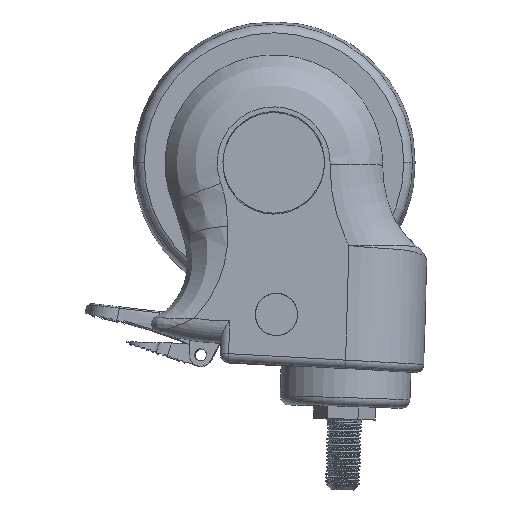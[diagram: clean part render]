
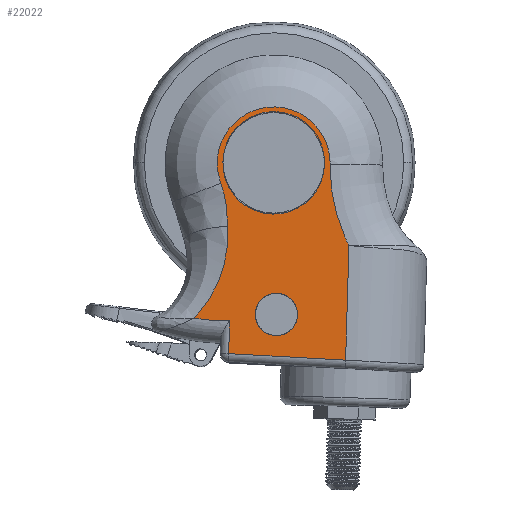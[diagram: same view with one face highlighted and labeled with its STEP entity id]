
A CAD part, top view. The second image highlights one B-rep face of the part: STEP entity #22022.
In plain terms, the highlighted planar face has unit normal (-0.007, 0.005, 1).
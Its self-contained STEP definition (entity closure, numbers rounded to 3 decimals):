
#18695=CARTESIAN_POINT('',(59.624,-35.058,
-20.365));
#19414=DIRECTION('',(0.029,1.,-0.004));
#19415=VECTOR('',#19414,40.624);
#19416=CARTESIAN_POINT('',(59.624,-35.058,
-20.365));
#19417=LINE('',#19416,#19415);
#19430=CARTESIAN_POINT('',(17.61,50.864,
-21.064));
#19431=DIRECTION('',(0.007,-0.005,-1.));
#19432=DIRECTION('',(0.013,-1.,0.005));
#19433=AXIS2_PLACEMENT_3D('',#19430,#19431,#19432);
#19435=CARTESIAN_POINT('',(17.862,12.393,
-20.887));
#19436=CARTESIAN_POINT('',(17.734,14.952,
-20.899));
#19437=CARTESIAN_POINT('',(17.431,20.076,
-20.925));
#19438=CARTESIAN_POINT('',(16.34,25.188,
-20.956));
#19439=CARTESIAN_POINT('',(15.42,27.622,
-20.974));
#19441=CARTESIAN_POINT('',(15.42,27.622,
-20.974));
#19442=CARTESIAN_POINT('',(14.983,28.806,
-20.983));
#19443=CARTESIAN_POINT('',(14.328,31.179,
-20.998));
#19444=CARTESIAN_POINT('',(14.016,34.798,
-21.017));
#19445=CARTESIAN_POINT('',(14.365,38.345,
-21.031));
#19446=CARTESIAN_POINT('',(15.288,41.693,
-21.039));
#19447=CARTESIAN_POINT('',(16.811,44.912,
-21.043));
#19448=CARTESIAN_POINT('',(18.875,47.784,
-21.041));
#19449=CARTESIAN_POINT('',(21.401,50.255,
-21.034));
#19450=CARTESIAN_POINT('',(24.313,52.236,
-21.022));
#19451=CARTESIAN_POINT('',(27.518,53.674,
-21.005));
#19452=CARTESIAN_POINT('',(30.914,54.538,
-20.984));
#19453=CARTESIAN_POINT('',(34.406,54.79,
-20.96));
#19454=CARTESIAN_POINT('',(37.887,54.44,
-20.933));
#19455=CARTESIAN_POINT('',(41.253,53.489,
-20.904));
#19456=CARTESIAN_POINT('',(44.407,51.965,
-20.874));
#19457=CARTESIAN_POINT('',(47.257,49.919,
-20.844));
#19458=CARTESIAN_POINT('',(49.706,47.391,
-20.814));
#19459=CARTESIAN_POINT('',(51.648,44.542,
-20.787));
#19460=CARTESIAN_POINT('',(53.098,41.346,
-20.762));
#19461=CARTESIAN_POINT('',(53.964,37.929,
-20.74));
#19462=CARTESIAN_POINT('',(54.142,35.601,
-20.728));
#19463=CARTESIAN_POINT('',(54.125,34.416,
-20.723));
#19465=CARTESIAN_POINT('',(116.097,33.556,
-20.266));
#19466=DIRECTION('',(-0.007,0.005,1.));
#19467=DIRECTION('',(-1.,0.014,-0.007));
#19468=AXIS2_PLACEMENT_3D('',#19465,#19466,#19467);
#19470=CARTESIAN_POINT('',(116.097,33.556,
-20.266));
#19471=DIRECTION('',(-0.007,0.005,1.));
#19472=DIRECTION('',(-0.916,-0.402,-0.005));
#19473=AXIS2_PLACEMENT_3D('',#19470,#19471,#19472);
#19475=DIRECTION('',(-0.998,0.055,-0.008));
#19476=VECTOR('',#19475,41.514);
#19477=CARTESIAN_POINT('',(59.624,-35.058,
-20.365));
#19478=LINE('',#19477,#19476);
#19479=CARTESIAN_POINT('',(34.128,34.693,
-20.87));
#19480=DIRECTION('',(-0.007,0.005,1.));
#19481=DIRECTION('',(-1.,0.029,-0.007));
#19482=AXIS2_PLACEMENT_3D('',#19479,#19480,#19481);
#19484=CARTESIAN_POINT('',(34.128,34.693,
-20.87));
#19485=DIRECTION('',(-0.007,0.005,1.));
#19486=DIRECTION('',(1.,-0.029,0.007));
#19487=AXIS2_PLACEMENT_3D('',#19484,#19485,#19486);
#19489=CARTESIAN_POINT('',(35.086,-18.873,
-20.618));
#19490=DIRECTION('',(-0.007,0.005,1.));
#19491=DIRECTION('',(-1.,0.029,-0.007));
#19492=AXIS2_PLACEMENT_3D('',#19489,#19490,#19491);
#19494=CARTESIAN_POINT('',(35.086,-18.873,
-20.618));
#19495=DIRECTION('',(-0.007,0.005,1.));
#19496=DIRECTION('',(1.,-0.029,0.007));
#19497=AXIS2_PLACEMENT_3D('',#19494,#19495,#19496);
#19499=DIRECTION('',(-0.029,-1.,0.004));
#19500=VECTOR('',#19499,11.64);
#19501=CARTESIAN_POINT('',(18.514,-21.13,
-20.728));
#19502=LINE('',#19501,#19500);
#19684=CARTESIAN_POINT('',(17.862,12.393,
-20.887));
#19685=CARTESIAN_POINT('',(17.981,10.027,
-20.875));
#19686=CARTESIAN_POINT('',(17.866,5.538,
-20.855));
#19687=CARTESIAN_POINT('',(16.825,-0.537,
-20.835));
#19688=CARTESIAN_POINT('',(15.287,-5.691,
-20.823));
#19689=CARTESIAN_POINT('',(12.636,-11.452,
-20.816));
#19690=CARTESIAN_POINT('',(9.399,-16.284,
-20.817));
#19691=CARTESIAN_POINT('',(6.991,-18.943,
-20.823));
#19692=CARTESIAN_POINT('',(5.734,-20.15,
-20.826));
#20518=VERTEX_POINT('',#18695);
#20647=CARTESIAN_POINT('',(60.808,5.548,
-20.542));
#20648=VERTEX_POINT('',#20647);
#20649=CARTESIAN_POINT('',(18.514,-21.13,
-20.728));
#20650=CARTESIAN_POINT('',(18.175,-32.765,
-20.678));
#20651=VERTEX_POINT('',#20649);
#20652=VERTEX_POINT('',#20650);
#20653=CARTESIAN_POINT('',(5.734,-20.149,
-20.826));
#20654=VERTEX_POINT('',#20653);
#20655=VERTEX_POINT('',#19684);
#20656=VERTEX_POINT('',#19439);
#20657=VERTEX_POINT('',#19463);
#20658=CARTESIAN_POINT('',(59.351,8.632,
-20.567));
#20659=VERTEX_POINT('',#20658);
#20660=CARTESIAN_POINT('',(16.136,35.217,
-21.004));
#20661=CARTESIAN_POINT('',(52.119,34.17,
-20.736));
#20662=VERTEX_POINT('',#20660);
#20663=VERTEX_POINT('',#20661);
#20664=CARTESIAN_POINT('',(27.589,-18.655,
-20.674));
#20665=CARTESIAN_POINT('',(42.583,-19.091,
-20.562));
#20666=VERTEX_POINT('',#20664);
#20667=VERTEX_POINT('',#20665);
#21986=CARTESIAN_POINT('',(33.781,10.204,
-20.76));
#21987=DIRECTION('',(-0.007,0.005,1.));
#21988=DIRECTION('',(1.,-0.029,0.007));
#21989=AXIS2_PLACEMENT_3D('',#21986,#21987,#21988);
#21990=PLANE('',#21989);
#21992=ORIENTED_EDGE('',*,*,#21991,.F.);
#21994=ORIENTED_EDGE('',*,*,#21993,.T.);
#21996=ORIENTED_EDGE('',*,*,#21995,.F.);
#21998=ORIENTED_EDGE('',*,*,#21997,.T.);
#22000=ORIENTED_EDGE('',*,*,#21999,.T.);
#22002=ORIENTED_EDGE('',*,*,#22001,.T.);
#22004=ORIENTED_EDGE('',*,*,#22003,.T.);
#22005=ORIENTED_EDGE('',*,*,#21977,.F.);
#22007=ORIENTED_EDGE('',*,*,#22006,.T.);
#22008=EDGE_LOOP('',(#21992,#21994,#21996,#21998,#22000,#22002,#22004,#22005,
#22007));
#22009=FACE_OUTER_BOUND('',#22008,.F.);
#22011=ORIENTED_EDGE('',*,*,#22010,.T.);
#22013=ORIENTED_EDGE('',*,*,#22012,.T.);
#22014=EDGE_LOOP('',(#22011,#22013));
#22015=FACE_BOUND('',#22014,.F.);
#22017=ORIENTED_EDGE('',*,*,#22016,.T.);
#22019=ORIENTED_EDGE('',*,*,#22018,.T.);
#22020=EDGE_LOOP('',(#22017,#22019));
#22021=FACE_BOUND('',#22020,.F.);
#19434=CIRCLE('',#19433,72.);
#19440=B_SPLINE_CURVE_WITH_KNOTS('',3,(#19435,#19436,#19437,#19438,#19439),
.UNSPECIFIED.,.F.,.F.,(4,1,4),(0.,0.5,1.),.UNSPECIFIED.);
#19464=B_SPLINE_CURVE_WITH_KNOTS('',3,(#19441,#19442,#19443,#19444,#19445,
#19446,#19447,#19448,#19449,#19450,#19451,#19452,#19453,#19454,#19455,#19456,
#19457,#19458,#19459,#19460,#19461,#19462,#19463),.UNSPECIFIED.,.F.,.F.,(4,1,1,
1,1,1,1,1,1,1,1,1,1,1,1,1,1,1,1,1,4),(0.,0.05,0.1,0.15,0.2,0.25,
0.3,0.35,0.4,0.45,0.5,0.55,0.6,0.65,0.7,0.75,0.8,0.85,
0.9,0.95,1.),.UNSPECIFIED.);
#19469=CIRCLE('',#19468,61.98);
#19474=CIRCLE('',#19473,61.98);
#19483=CIRCLE('',#19482,18.);
#19488=CIRCLE('',#19487,18.);
#19493=CIRCLE('',#19492,7.5);
#19498=CIRCLE('',#19497,7.5);
#19693=B_SPLINE_CURVE_WITH_KNOTS('',3,(#19684,#19685,#19686,#19687,#19688,
#19689,#19690,#19691,#19692),.UNSPECIFIED.,.F.,.F.,(4,1,1,1,1,1,4),(0.,
0.167,0.333,0.5,0.667,0.833,
1.),.UNSPECIFIED.);
#21977=EDGE_CURVE('',#20518,#20648,#19417,.T.);
#21991=EDGE_CURVE('',#20651,#20652,#19502,.T.);
#21993=EDGE_CURVE('',#20651,#20654,#19434,.T.);
#21995=EDGE_CURVE('',#20655,#20654,#19693,.T.);
#21997=EDGE_CURVE('',#20655,#20656,#19440,.T.);
#21999=EDGE_CURVE('',#20656,#20657,#19464,.T.);
#22001=EDGE_CURVE('',#20657,#20659,#19469,.T.);
#22003=EDGE_CURVE('',#20659,#20648,#19474,.T.);
#22006=EDGE_CURVE('',#20518,#20652,#19478,.T.);
#22010=EDGE_CURVE('',#20662,#20663,#19483,.T.);
#22012=EDGE_CURVE('',#20663,#20662,#19488,.T.);
#22016=EDGE_CURVE('',#20666,#20667,#19493,.T.);
#22018=EDGE_CURVE('',#20667,#20666,#19498,.T.);
#22022=ADVANCED_FACE('',(#22009,#22015,#22021),#21990,.T.);
